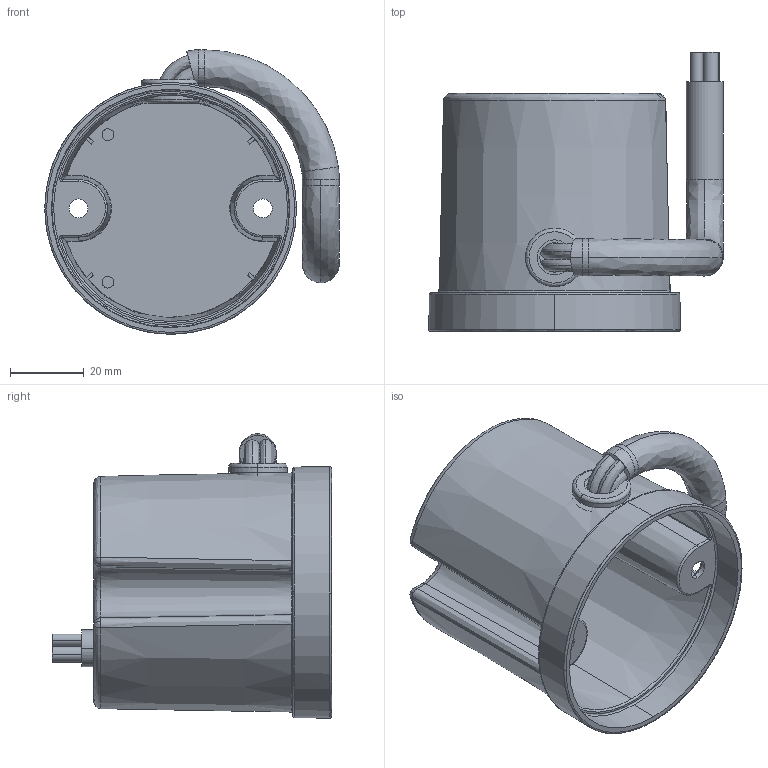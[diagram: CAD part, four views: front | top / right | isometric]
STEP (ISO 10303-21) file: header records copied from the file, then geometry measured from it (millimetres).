
FILE_DESCRIPTION (( 'STEP AP203' ), '1' );
FILE_NAME ('CI71_Lynn.STEP', '2022-01-03T09:38:07', ( '' ), ( '' ), 'SwSTEP 2.0', 'SolidWorks 2020', '' );
FILE_SCHEMA (( 'CONFIG_CONTROL_DESIGN' ));
Length unit declared in the file: millimetre
Products named in the file (7): GM-3A; 16-GREEN-WIRE; WIRE; CI71_Lynn; GM-9; MOTOR-COVER-A; 16-ORANGE-WIRE
Assembly tree (6 placements, depth 2):
  CI71_Lynn
    MOTOR-COVER-A
    GM-3A
    GM-9
    WIRE
    16-GREEN-WIRE
    16-ORANGE-WIRE
Bounding box: 79.86 x 75.68 x 77.14 mm (x, y, z)
Volume: 43113.9 mm3; surface area: 41920.4 mm2
Topology: 6 solids, 6 shells, 223 faces, 539 edges, 328 vertices
Faces by surface type: bspline 84, cylinder 68, plane 53, cone 18
Entity records: 11011 total; most frequent: CARTESIAN_POINT 5490, ORIENTED_EDGE 1044, DIRECTION 982, EDGE_CURVE 522, AXIS2_PLACEMENT_3D 424, VERTEX_POINT 328, CIRCLE 276, EDGE_LOOP 250
